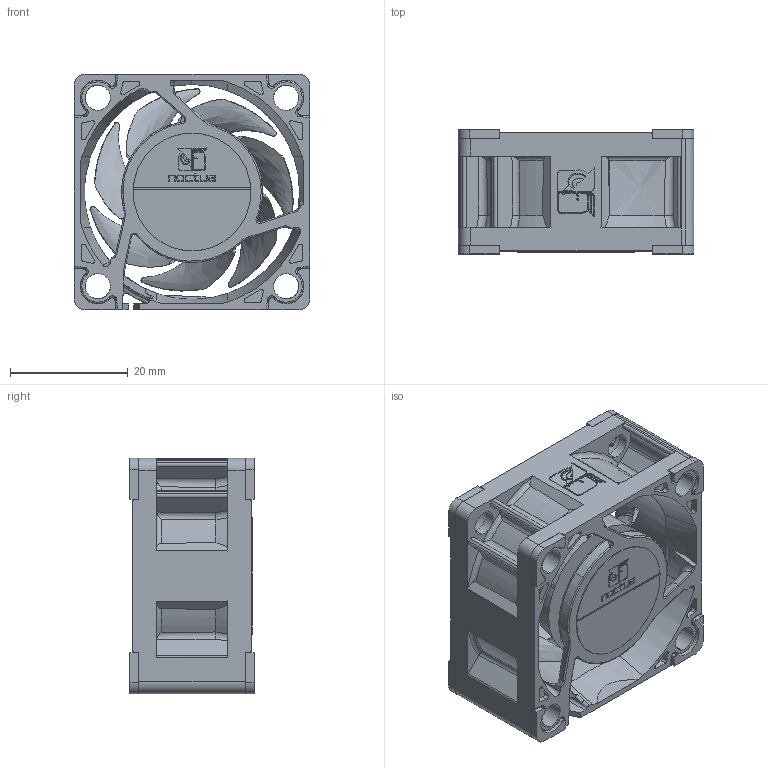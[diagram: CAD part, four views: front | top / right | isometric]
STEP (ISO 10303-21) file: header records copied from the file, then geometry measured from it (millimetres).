
FILE_DESCRIPTION(/* description */ ('140mm Desk Fan'),/* implementation_level */ '2;1');
FILE_NAME(/* name */ 'NF-A4x20_Public-CAD',/* time_stamp */ '2026-04-10T08:34:01+02:00',/* author */ ('Andreas'),/* organization */ ('Rascom'),/* preprocessor_version */ 'ST-DEVELOPER v18.102',/* originating_system */ 'Solid Edge',/* authorisation */ 'Unknown');
FILE_SCHEMA (('AUTOMOTIVE_DESIGN {1 0 10303 214 3 1 1}'));
Products named in the file (5): NF-A4x20_Public-CAD; NF-A4x20_Impeller-Public; NA-AVP9; NF-A4x20_Frame-Public-2; Fan-Label-D20mm-Regular
Assembly tree (11 placements, depth 2):
  NF-A4x20_Public-CAD
    NF-A4x20_Impeller-Public
    NA-AVP9  x8
    NF-A4x20_Frame-Public-2
    Fan-Label-D20mm-Regular
Bounding box: 40 x 21.1 x 40 mm (x, y, z)
Volume: 13190 mm3; surface area: 13218.4 mm2
Topology: 11 solids, 12 shells, 1058 faces, 2950 edges, 1936 vertices
Faces by surface type: cylinder 453, plane 320, bspline 121, torus 119, cone 41, sphere 4
Full cylindrical faces by diameter (mm): 1.46 x1, 20 x2, 23.9 x1
Entity records: 46840 total; most frequent: CARTESIAN_POINT 24269, ORIENTED_EDGE 5416, DIRECTION 2928, EDGE_CURVE 2708, VERTEX_POINT 1791, B_SPLINE_CURVE_WITH_KNOTS 1612, AXIS2_PLACEMENT_3D 1048, EDGE_LOOP 1041
